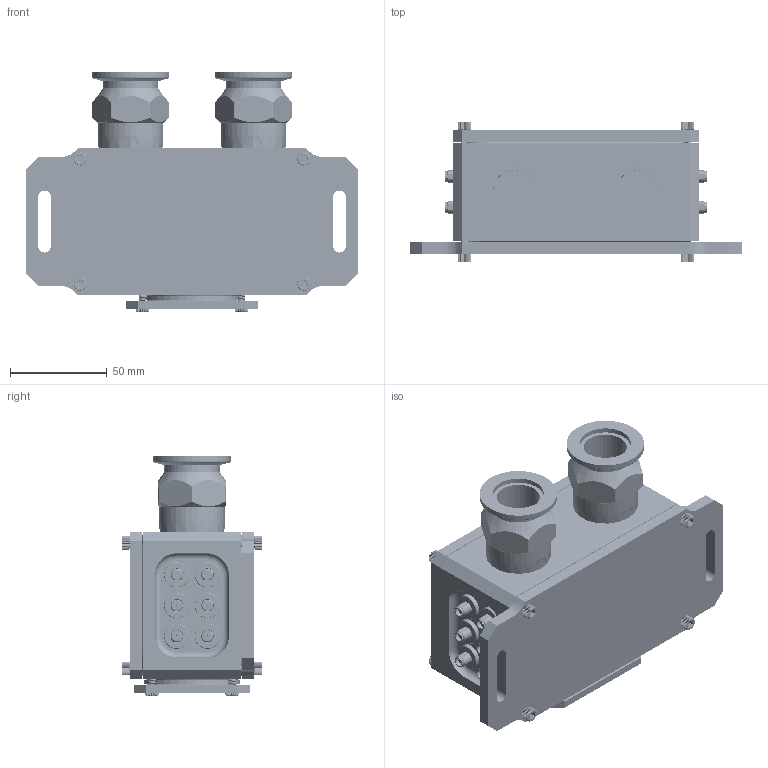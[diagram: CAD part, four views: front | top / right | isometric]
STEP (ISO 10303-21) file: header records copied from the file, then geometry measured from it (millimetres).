
FILE_DESCRIPTION (( 'STEP AP214' ), '1' );
FILE_NAME ('VacuumChamberAssembly.STEP', '2025-04-29T14:27:26', ( '' ), ( '' ), 'SwSTEP 2.0', 'SolidWorks 2021', '' );
FILE_SCHEMA (( 'AUTOMOTIVE_DESIGN' ));
Length unit declared in the file: inch
Products named in the file (12): 92196A189_8-32_.1875in_92196A189; P101605_1in-NPT-KF; CentralChamber; WindowFrame; BreadBoard Module; edmund-36-946_Window_50x2mm; 9464K311_WindowGasket_9464K311; 92196A194_8-32_.5in_92196A194; WindowModule; 9464K461_PlateGasket; VacuumChamberAssembly; PE1358_BNC-Feedthrough_.3125in
Assembly tree (43 placements, depth 2):
  VacuumChamberAssembly
    CentralChamber
    9464K311_WindowGasket_9464K311  x4
    P101605_1in-NPT-KF  x2
    PE1358_BNC-Feedthrough_.3125in  x12
    9464K461_PlateGasket  x2
    BreadBoard Module
    WindowModule
    edmund-36-946_Window_50x2mm  x2
    WindowFrame  x2
    92196A189_8-32_.1875in_92196A189  x8
    92196A194_8-32_.5in_92196A194  x8
Bounding box: 171.45 x 72.62 x 123.93 mm (x, y, z)
Volume: 320606.1 mm3; surface area: 167118.8 mm2
Topology: 43 solids, 43 shells, 7146 faces, 17606 edges, 10785 vertices
Faces by surface type: plane 2766, cylinder 2224, cone 1968, bspline 120, torus 68
Entity records: 42235 total; most frequent: CARTESIAN_POINT 13005, ORIENTED_EDGE 5974, DIRECTION 5946, EDGE_CURVE 2987, AXIS2_PLACEMENT_3D 2392, VERTEX_POINT 1856, EDGE_LOOP 1403, ADVANCED_FACE 1242
